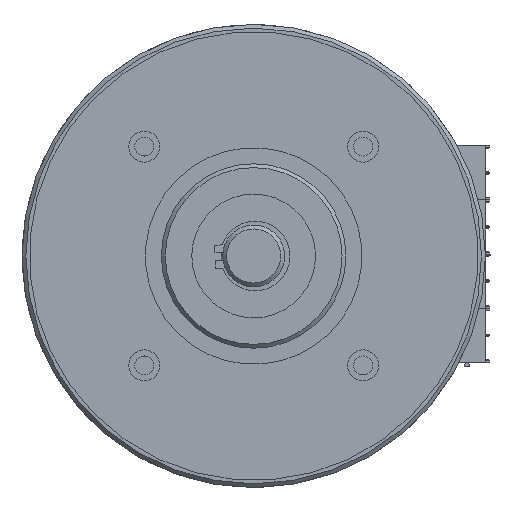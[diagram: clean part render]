
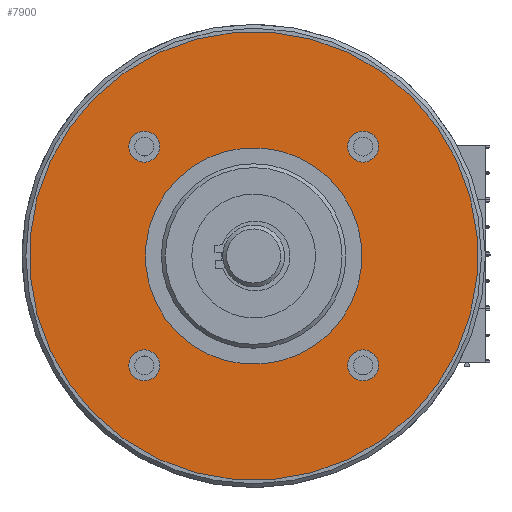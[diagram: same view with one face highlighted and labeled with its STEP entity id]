
A CAD part, left-side view. The second image highlights one B-rep face of the part: STEP entity #7900.
In plain terms, the highlighted planar face has unit normal (-1, 0, 0) as drawn and (0, 0, -1) by its records, which use the part's own axes.
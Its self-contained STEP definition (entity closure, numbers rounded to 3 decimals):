
#7690=CARTESIAN_POINT('',(20.0,2.,0.0));
#7691=VERTEX_POINT('',#7690);
#7692=CARTESIAN_POINT('',(20.0,0.,0.0));
#7693=DIRECTION('',(0.0,0.0,1.0));
#7694=DIRECTION('',(0.0,-1.0,0.0));
#7695=AXIS2_PLACEMENT_3D('',#7692,#7693,#7694);
#7696=CIRCLE('',#7695,2.0);
#7697=EDGE_CURVE('',#7691,#7691,#7696,.T.);
#7718=CARTESIAN_POINT('',(2.,-20.0,0.0));
#7719=VERTEX_POINT('',#7718);
#7720=CARTESIAN_POINT('',(0.,-20.0,0.0));
#7721=DIRECTION('',(0.0,0.0,1.0));
#7722=DIRECTION('',(-1.0,0.0,0.0));
#7723=AXIS2_PLACEMENT_3D('',#7720,#7721,#7722);
#7724=CIRCLE('',#7723,2.0);
#7725=EDGE_CURVE('',#7719,#7719,#7724,.T.);
#7746=CARTESIAN_POINT('',(-20.0,-2.,0.0));
#7747=VERTEX_POINT('',#7746);
#7748=CARTESIAN_POINT('',(-20.0,0.,0.0));
#7749=DIRECTION('',(0.0,0.0,1.0));
#7750=DIRECTION('',(0.0,1.0,0.0));
#7751=AXIS2_PLACEMENT_3D('',#7748,#7749,#7750);
#7752=CIRCLE('',#7751,2.0);
#7753=EDGE_CURVE('',#7747,#7747,#7752,.T.);
#7774=CARTESIAN_POINT('',(-2.0,20.0,0.0));
#7775=VERTEX_POINT('',#7774);
#7776=CARTESIAN_POINT('',(0.0,20.0,0.0));
#7777=DIRECTION('',(0.0,0.0,1.0));
#7778=DIRECTION('',(1.0,0.0,0.0));
#7779=AXIS2_PLACEMENT_3D('',#7776,#7777,#7778);
#7780=CIRCLE('',#7779,2.0);
#7781=EDGE_CURVE('',#7775,#7775,#7780,.T.);
#7813=CARTESIAN_POINT('',(14.,0.,0.0));
#7814=VERTEX_POINT('',#7813);
#7815=CARTESIAN_POINT('',(0.0,0.0,0.0));
#7816=DIRECTION('',(0.0,0.0,1.0));
#7817=DIRECTION('',(-1.0,0.0,0.0));
#7818=AXIS2_PLACEMENT_3D('',#7815,#7816,#7817);
#7819=CIRCLE('',#7818,14.);
#7820=EDGE_CURVE('',#7814,#7814,#7819,.T.);
#7841=CARTESIAN_POINT('',(29.,0.,0.0));
#7842=VERTEX_POINT('',#7841);
#7843=CARTESIAN_POINT('',(0.0,0.0,0.0));
#7844=DIRECTION('',(0.0,0.0,-1.0));
#7845=DIRECTION('',(-1.0,0.0,0.0));
#7846=AXIS2_PLACEMENT_3D('',#7843,#7844,#7845);
#7847=CIRCLE('',#7846,29.);
#7848=EDGE_CURVE('',#7842,#7842,#7847,.T.);
#7877=CARTESIAN_POINT('',(0.0,0.0,0.0));
#7878=DIRECTION('',(0.0,0.0,-1.0));
#7879=DIRECTION('',(-1.0,0.0,0.0));
#7880=AXIS2_PLACEMENT_3D('',#7877,#7878,#7879);
#7881=PLANE('',#7880);
#7882=ORIENTED_EDGE('',*,*,#7848,.T.);
#7883=EDGE_LOOP('',(#7882));
#7884=FACE_OUTER_BOUND('',#7883,.T.);
#7885=ORIENTED_EDGE('',*,*,#7697,.T.);
#7886=EDGE_LOOP('',(#7885));
#7887=FACE_BOUND('',#7886,.T.);
#7888=ORIENTED_EDGE('',*,*,#7725,.T.);
#7889=EDGE_LOOP('',(#7888));
#7890=FACE_BOUND('',#7889,.T.);
#7891=ORIENTED_EDGE('',*,*,#7753,.T.);
#7892=EDGE_LOOP('',(#7891));
#7893=FACE_BOUND('',#7892,.T.);
#7894=ORIENTED_EDGE('',*,*,#7781,.T.);
#7895=EDGE_LOOP('',(#7894));
#7896=FACE_BOUND('',#7895,.T.);
#7897=ORIENTED_EDGE('',*,*,#7820,.T.);
#7898=EDGE_LOOP('',(#7897));
#7899=FACE_BOUND('',#7898,.T.);
#7900=ADVANCED_FACE('',(#7884,#7887,#7890,#7893,#7896,#7899),#7881,.T.);
